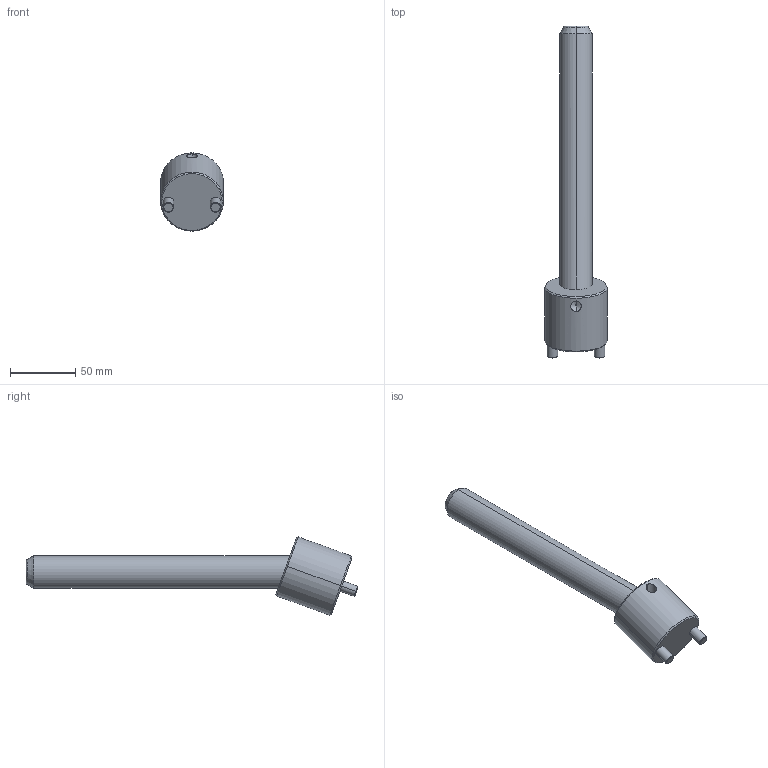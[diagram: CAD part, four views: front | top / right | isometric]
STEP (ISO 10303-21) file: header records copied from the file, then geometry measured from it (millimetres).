
FILE_DESCRIPTION(('CATIA V5 STEP Exchange'),'2;1');
FILE_NAME('C:\Users\Raffaele\Desktop\3D BOLEX\3D FILES CF BOLEX\19-INCLINED ASSEMBLY REF_CI\CI2025200.stp','2019-06-24T06:44:52+00:00',('none'),('none'),'CATIA Version 5 Release 20 GA (IN-10)','CATIA V5 STEP AP203','none');
FILE_SCHEMA(('CONFIG_CONTROL_DESIGN'));
Length unit declared in the file: millimetre
Products named in the file (1): CI2025200
Assembly tree (2 placements, depth 2):
  CI2025200
    #58
    #602
Bounding box: 48 x 253.47 x 59.81 mm (x, y, z)
Volume: 177335.1 mm3; surface area: 33239.5 mm2
Topology: 2 solids, 2 shells, 39 faces, 82 edges, 47 vertices
Faces by surface type: cone 14, cylinder 14, plane 7, torus 4
Entity records: 1521 total; most frequent: CARTESIAN_POINT 662, ORIENTED_EDGE 160, DIRECTION 145, EDGE_CURVE 80, AXIS2_PLACEMENT_3D 72, VERTEX_POINT 47, EDGE_LOOP 43, ADVANCED_FACE 39
